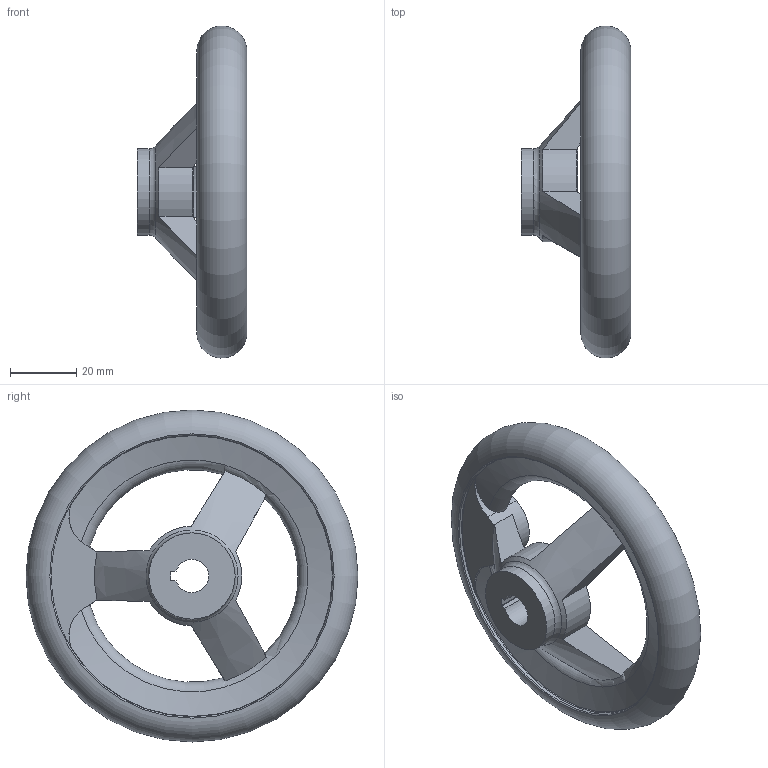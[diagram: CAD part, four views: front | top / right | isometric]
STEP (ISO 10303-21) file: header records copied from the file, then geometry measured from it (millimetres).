
FILE_DESCRIPTION( ( 'STEP AP203' ), '1' );
FILE_NAME( 'C:/Temp/Ganter_Step_05_03_2020/data/1_3/din_950/din_950_k/din_950_k_a/Handwheel DIN 950-GG-100-K10-A.stp', '2020-03-05T10:30:29', ( 'License CC BY-ND 4.0' ), ( 'CADENAS' ), ' ', 'PARTsolutions', ' ' );
FILE_SCHEMA( ( 'CONFIG_CONTROL_DESIGN' ) );
Length unit declared in the file: millimetre
Products named in the file (1): _Handwheel DIN 950-GG-100-K10-A
Bounding box: 33 x 99.97 x 99.97 mm (x, y, z)
Volume: 64655.5 mm3; surface area: 19472.9 mm2
Topology: 1 solids, 1 shells, 42 faces, 122 edges, 78 vertices
Faces by surface type: cylinder 15, plane 13, torus 10, cone 4
Full cylindrical faces by diameter (mm): 26 x2, 85 x2
Entity records: 1632 total; most frequent: CARTESIAN_POINT 576, ORIENTED_EDGE 210, DIRECTION 198, EDGE_CURVE 105, AXIS2_PLACEMENT_3D 87, VERTEX_POINT 75, EDGE_LOOP 59, FACE_OUTER_BOUND 53
